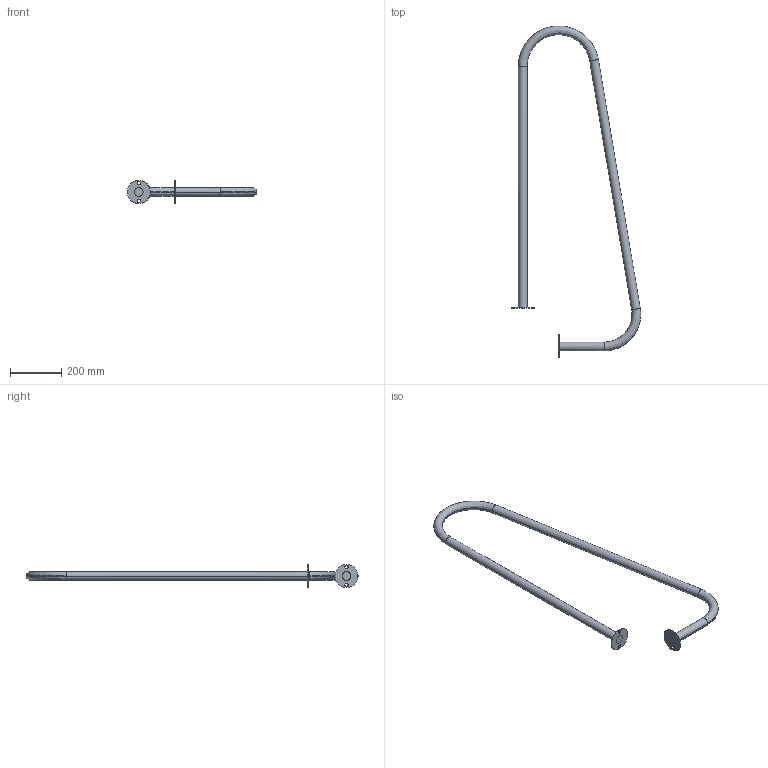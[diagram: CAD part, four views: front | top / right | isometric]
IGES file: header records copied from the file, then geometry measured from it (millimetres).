
Start section:  PTC IGES file: 52352472.igs
Global section: file name: 52352472.igs; native system: Creo Parametric by PTC Inc.; preprocessor: 2022162; author: wep; organization: Unknown; date: 20250721.082939; units: millimetre
Bounding box: 504.99 x 1294.85 x 90 mm (x, y, z)
Surface area: 316140.8 mm2 (no closed solid volume)
Topology: 0 solids, 0 shells, 26 faces, 116 edges, 116 vertices
Faces by surface type: revolution 22, bspline 4
